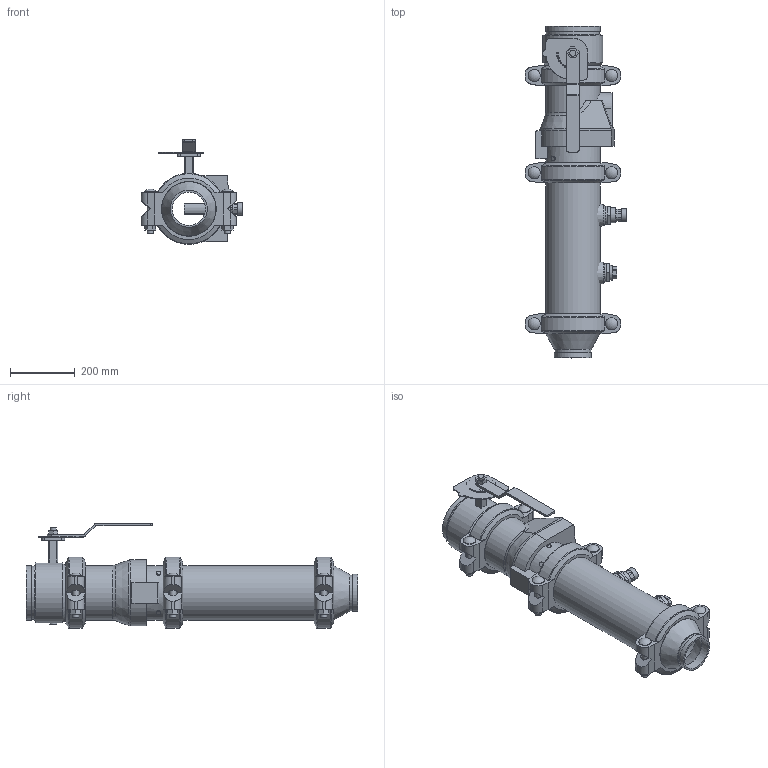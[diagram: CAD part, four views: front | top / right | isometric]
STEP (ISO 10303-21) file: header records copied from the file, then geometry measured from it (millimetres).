
FILE_DESCRIPTION(/* description */ ('VIC DVI PUMP DROP VERT S/380G (OGS)','CAx-IF Rec.Pracs.---Representation and Presentation of Product Manufacturing Information (PMI)---4.0---2014-10-13'),/* implementation_level */ '2;1');
FILE_NAME(/* name */ 'C:\Users\Public\Documents\Victaulic.Temp\A958\Victaulic_IPS_Vertical DVI_Series 380G (OGSxOGS)_06.0x04.0 (150x100).stp',/* time_stamp */ '2022-07-25T12:43:50+02:00',/* author */ ('Vjadhav'),/* organization */ ('Victaulic'),/* preprocessor_version */ 'ST-DEVELOPER v18',/* originating_system */ 'Autodesk Inventor 2020',/* authorisation */ '');
FILE_SCHEMA (('AP242_MANAGED_MODEL_BASED_3D_ENGINEERING_MIM_LF { 1 0 10303 442 1 1 4 }'));
Length unit declared in the file: inch
Products named in the file (8): 380G-06.0x04.0; 050-06.0x04.0; Pipe-06.0; 177N-06.0; 761-06.0; 779-06.0; 923-04.0x0.75; 924-04.0x0.75
Assembly tree (9 placements, depth 2):
  380G-06.0x04.0
    050-06.0x04.0
    177N-06.0  x3
    Pipe-06.0
    761-06.0
    779-06.0
    923-04.0x0.75
    924-04.0x0.75
Bounding box: 313.48 x 1022.35 x 322.07 mm (x, y, z)
Volume: 10317818.7 mm3; surface area: 1734179.1 mm2
Topology: 9 solids, 10 shells, 572 faces, 1490 edges, 996 vertices
Faces by surface type: plane 337, cylinder 189, cone 20, torus 18, sphere 6, bspline 2
Full cylindrical faces by diameter (mm): 4.826 x10, 8.636 x4, 13.716 x4, 19.05 x8, 22.86 x1, 26.67 x2, 37.694 x6, 38.608 x1, 45.974 x4, 55.118 x1, 55.626 x2, 102.26 x1, 110.084 x1, 114.3 x2, 154.051 x4, 155.575 x3, 163.957 x7, 168.275 x19, 185.42 x1
Entity records: 13370 total; most frequent: CARTESIAN_POINT 2681, DIRECTION 2206, ORIENTED_EDGE 2008, EDGE_CURVE 1004, AXIS2_PLACEMENT_3D 839, VERTEX_POINT 676, LINE 528, VECTOR 528
